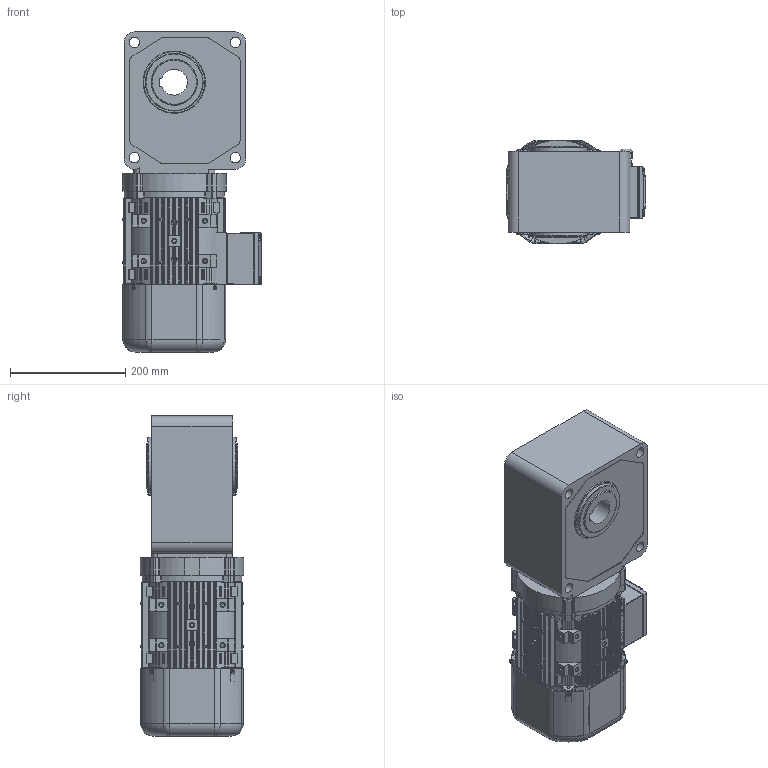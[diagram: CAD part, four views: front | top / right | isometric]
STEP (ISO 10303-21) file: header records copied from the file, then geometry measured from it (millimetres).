
FILE_DESCRIPTION((''),'2;1');
FILE_NAME('D:\01_작성 문서\2011\01 도면작업\00 그외\20110428_동력용 직교형 중공축 홈페이지 3D모형\PCH45-(5~60)-EC(D)150R4B.stp','2013-04-16T10:47:35',('jingon'),(''),'Autodesk Inventor 2012','Autodesk Inventor 2012','');
FILE_SCHEMA(('AUTOMOTIVE_DESIGN { 1 0 10303 214 1 1 1 1 }'));
Length unit declared in the file: millimetre
Products named in the file (15): PCH45-(5~60)-EC(D)150R4B; 90L 1.5kW FRAME L_T 20091120; 90L 1.5kW FRONT COVER L_T 20090618; 554260252-M6-L25; 552400800-M4XL8; RUBBER GASKET FOR ASM; Lead box EA(B) ASS'Y; LEAD BOX A 20090609; LEAD BOX B 20090609; 0570004400_SKINTOP PG11; 0570004400_BED; 0570004400_CAP; 0570004400_Rubber; 1.5kW FAN COVER BRAKE TYPE ; 중공축_1500W_45F
Assembly tree (24 placements, depth 3):
  PCH45-(5~60)-EC(D)150R4B
    90L 1.5kW FRAME L_T 20091120
    90L 1.5kW FRONT COVER L_T 20090618
    554260252-M6-L25  x4
    552400800-M4XL8  x4
    RUBBER GASKET FOR ASM
    1.5kW FAN COVER BRAKE TYPE 
    중공축_1500W_45F
  Lead box EA(B) ASS'Y
    LEAD BOX A 20090609
    LEAD BOX B 20090609
    RUBBER GASKET FOR ASM
    552400800-M4XL8  x4
    0570004400_SKINTOP PG11
      0570004400_BED
      0570004400_CAP
      0570004400_Rubber
Bounding box: 241.5 x 180 x 554.5 mm (x, y, z)
Volume: 9169538.9 mm3; surface area: 938088.6 mm2
Topology: 23 solids, 23 shells, 1757 faces, 4722 edges, 3102 vertices
Faces by surface type: plane 829, cylinder 740, cone 125, torus 36, sphere 16, bspline 11
Full cylindrical faces by diameter (mm): 3.2 x10, 3.242 x14, 3.6 x4, 4 x8, 4.917 x12, 5 x12, 6 x5, 6.647 x15, 7 x12, 9.5 x4, 10 x4, 10.2 x1, 10.7 x1, 13.1 x1, 13.4 x2, 18 x4, 18.4 x1, 18.6 x1, 18.8 x1, 21 x1, 22.2 x1, 26 x4, 100 x2, 155 x1, 158 x2, 166.5 x2, 168 x3
Entity records: 51261 total; most frequent: CARTESIAN_POINT 9950, DIRECTION 8790, ORIENTED_EDGE 7984, EDGE_CURVE 3992, AXIS2_PLACEMENT_3D 3360, VERTEX_POINT 2728, VECTOR 2070, LINE 2070
